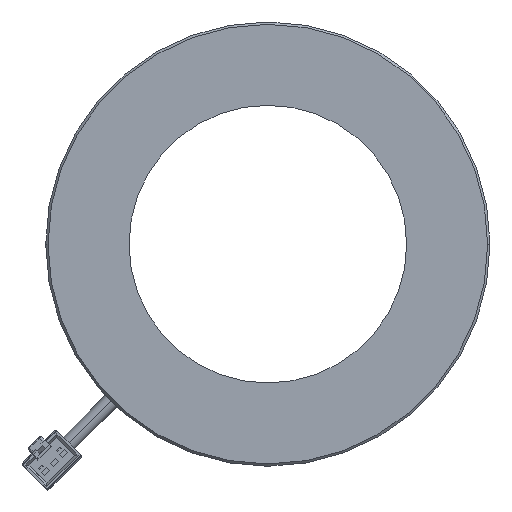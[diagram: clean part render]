
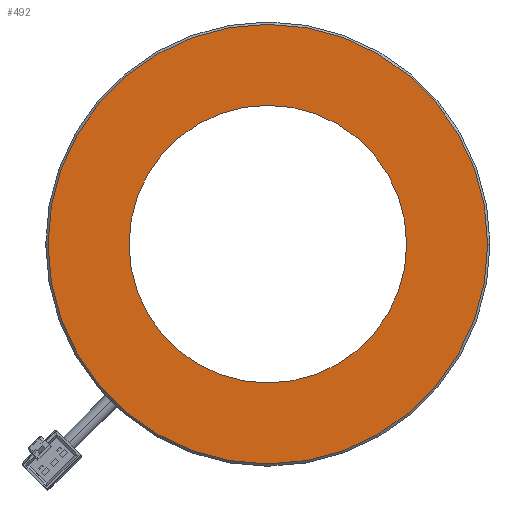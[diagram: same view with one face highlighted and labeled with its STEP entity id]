
A CAD part, front view. The second image highlights one B-rep face of the part: STEP entity #492.
In plain terms, the highlighted planar face has unit normal (0, -1, 0).
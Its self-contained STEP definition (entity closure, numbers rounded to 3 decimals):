
#123=CARTESIAN_POINT('',(0.,-10.,0.));
#124=DIRECTION('',(0.,1.,0.));
#125=DIRECTION('',(1.,0.,0.));
#126=AXIS2_PLACEMENT_3D('',#123,#124,#125);
#128=CARTESIAN_POINT('',(0.,-10.,0.));
#129=DIRECTION('',(0.,1.,0.));
#130=DIRECTION('',(-1.,0.,0.));
#131=AXIS2_PLACEMENT_3D('',#128,#129,#130);
#133=CARTESIAN_POINT('',(0.,-10.,0.));
#134=DIRECTION('',(0.,-1.,0.));
#135=DIRECTION('',(1.,0.,0.));
#136=AXIS2_PLACEMENT_3D('',#133,#134,#135);
#138=CARTESIAN_POINT('',(0.,-10.,0.));
#139=DIRECTION('',(0.,-1.,0.));
#140=DIRECTION('',(-1.,0.,0.));
#141=AXIS2_PLACEMENT_3D('',#138,#139,#140);
#291=CARTESIAN_POINT('',(-47.5,-10.,0.));
#292=VERTEX_POINT('',#291);
#293=CARTESIAN_POINT('',(47.5,-10.,0.));
#294=VERTEX_POINT('',#293);
#295=CARTESIAN_POINT('',(30.,-10.,0.));
#296=CARTESIAN_POINT('',(-30.,-10.,0.));
#297=VERTEX_POINT('',#295);
#298=VERTEX_POINT('',#296);
#477=CARTESIAN_POINT('',(0.,-10.,0.));
#478=DIRECTION('',(0.,1.,0.));
#479=DIRECTION('',(1.,0.,0.));
#480=AXIS2_PLACEMENT_3D('',#477,#478,#479);
#481=PLANE('',#480);
#482=ORIENTED_EDGE('',*,*,#470,.T.);
#483=ORIENTED_EDGE('',*,*,#459,.T.);
#484=EDGE_LOOP('',(#482,#483));
#485=FACE_OUTER_BOUND('',#484,.F.);
#487=ORIENTED_EDGE('',*,*,#486,.T.);
#489=ORIENTED_EDGE('',*,*,#488,.T.);
#490=EDGE_LOOP('',(#487,#489));
#491=FACE_BOUND('',#490,.F.);
#127=CIRCLE('',#126,47.5);
#132=CIRCLE('',#131,47.5);
#137=CIRCLE('',#136,30.);
#142=CIRCLE('',#141,30.);
#459=EDGE_CURVE('',#292,#294,#132,.T.);
#470=EDGE_CURVE('',#294,#292,#127,.T.);
#486=EDGE_CURVE('',#297,#298,#137,.T.);
#488=EDGE_CURVE('',#298,#297,#142,.T.);
#492=ADVANCED_FACE('',(#485,#491),#481,.F.);
